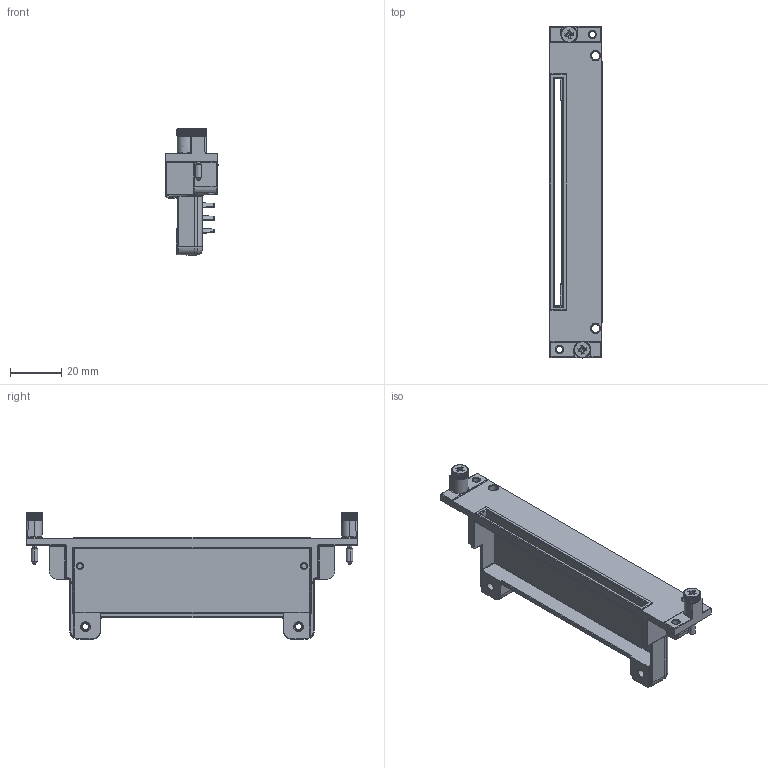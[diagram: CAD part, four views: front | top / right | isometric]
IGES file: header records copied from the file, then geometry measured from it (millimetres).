
Start section:  PTC IGES file: cu_pxi-795xr.igs
Global section: file name: cu_pxi-795xr.igs; native system: Pro/ENGINEER by Parametric Technology Corporation; preprocessor: 2010230; author: jjorden; organization: Unknown; date: 20120423.095136; units: inch
Bounding box: 20.24 x 129.02 x 49.07 mm (x, y, z)
Surface area: 23126 mm2 (no closed solid volume)
Topology: 0 solids, 0 shells, 908 faces, 4562 edges, 4554 vertices
Faces by surface type: bspline 510, revolution 386, extrusion 12
